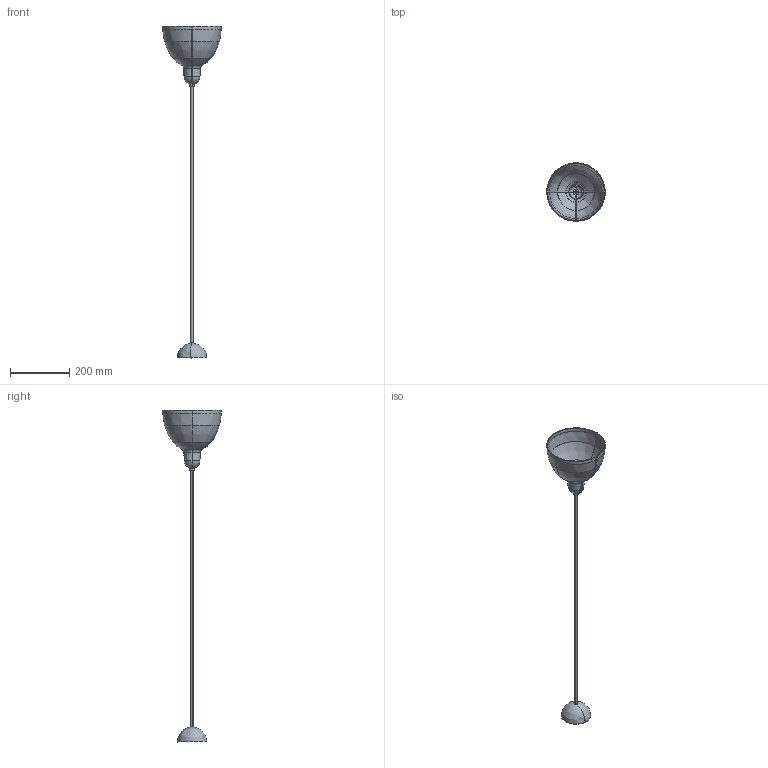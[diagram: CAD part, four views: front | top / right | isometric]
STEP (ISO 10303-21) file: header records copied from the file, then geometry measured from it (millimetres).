
FILE_DESCRIPTION(/* description */ (''),/* implementation_level */ '2;1');
FILE_NAME(/* name */ '64255-124.step',/* time_stamp */ '2024-04-08T12:07:41+02:00',/* author */ ('RenataManzini'),/* organization */ (''),/* preprocessor_version */ 'ST-DEVELOPER v20',/* originating_system */ 'AutoCAD Mechanical',/* authorisation */ '');
FILE_SCHEMA (('AUTOMOTIVE_DESIGN { 1 0 10303 214 3 1 1 }'));
Length unit declared in the file: millimetre
Products named in the file (3): Product; 64255 - ceiling support-637569-Export; 64255_64256_64257_VENICE_LAMP - Lamp Holder-637570-Export
Assembly tree (2 placements, depth 2):
  Product
    64255 - ceiling support-637569-Export
    64255_64256_64257_VENICE_LAMP - Lamp Holder-637570-Export
Bounding box: 197.96 x 197.84 x 1123.11 mm (x, y, z)
Volume: 331682.3 mm3; surface area: 419020.6 mm2
Topology: 7 solids, 7 shells, 222 faces, 518 edges, 306 vertices
Faces by surface type: plane 57, bspline 56, cylinder 49, cone 32, torus 28
Entity records: 10103 total; most frequent: CARTESIAN_POINT 5643, ORIENTED_EDGE 1036, DIRECTION 740, EDGE_CURVE 518, VERTEX_POINT 306, AXIS2_PLACEMENT_3D 289, EDGE_LOOP 228, FACE_OUTER_BOUND 222
